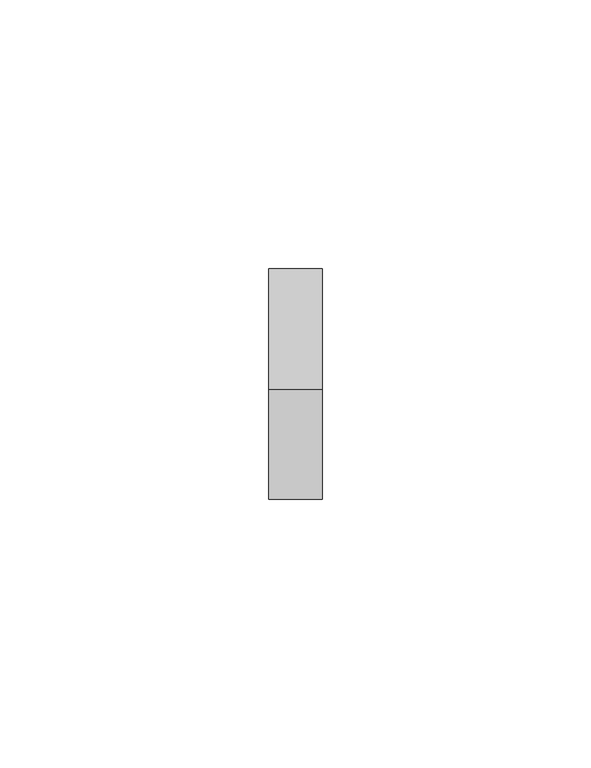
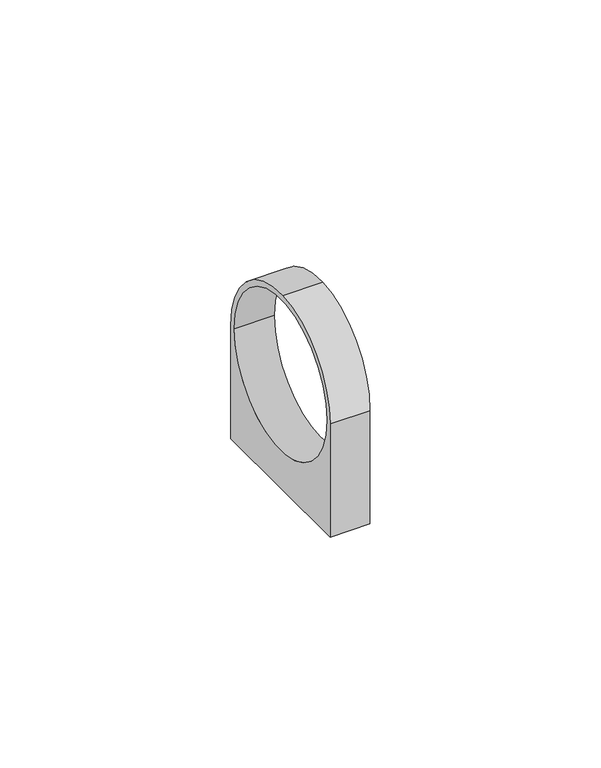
"""IFC4 building model written with IfcOpenShell, lengths in millimetres: cable carrier fitting geometry, Хомутный держатель CFC : CTA10D-CFC40-K41-050."""

from ifc_helpers import new_model, si_unit, point, frame, origin, origin_2d, place, context, project, spatial, polyline, circle_curve, trimmed, segment, composite_curve, outline, extrude, source, transform, mapped, element, save


def cable_carrier_fitting_f47d66c9(model_context):
    return source(origin(), model_context, "Body", "SweptSolid", [
        extrude(outline(composite_curve([segment(polyline([(-21.5, -30.0), (-21.5, 0.0)]), True, "CONTINUOUS"), segment(trimmed(circle_curve(origin_2d(), 21.5), [point((-21.5, 0.0))], [point((-1.0483988, 21.4744234))], False, "CARTESIAN"), True, "CONTINUOUS"), segment(trimmed(circle_curve(origin_2d(), 21.5), [point((-1.0483988, 21.4744234))], [point((21.5, 0.0))], False, "CARTESIAN"), True, "CONTINUOUS"), segment(polyline([(21.5, 0.0), (21.5, -30.0), (-21.5, -30.0)]), True, "CONTINUOUS")], self_intersect=False), holes=[composite_curve([segment(trimmed(circle_curve(origin_2d(), 20.0), [point((-20.0, 0.0))], [point((20.0, 0.0))], True, "CARTESIAN"), True, "CONTINUOUS"), segment(trimmed(circle_curve(origin_2d(), 20.0), [point((20.0, 0.0))], [point((-20.0, 0.0))], True, "CARTESIAN"), True, "CONTINUOUS")], self_intersect=False)]), frame((-5.0, 0.0, 0.0), z_axis=(1.0, 0.0, 0.0), x_axis=(0.0, 1.0, 0.0)), (0.0, 0.0, 1.0), 10.0),
    ])


if __name__ == "__main__":
    model = new_model("IFC4")
    model_context = context("Model", 3, world=origin())
    ifc_project = project(units=[si_unit("LENGTHUNIT", "METRE", prefix="MILLI")], contexts=[model_context])
    site = spatial("IfcSite", under=ifc_project)
    building = spatial("IfcBuilding", under=site)
    placement = place(None, origin())
    cable_carrier_fitting_shape = cable_carrier_fitting_f47d66c9(model_context)
    element("IfcCableCarrierFitting", 1, ObjectType="Хомутный держатель CFC : CTA10D-CFC40-K41-050", at=placement, inside=building, context=model_context, shape_type="MappedRepresentation", body=[
        mapped(cable_carrier_fitting_shape, transform((0.0, 0.0, 0.0), x_axis=(1.0, 0.0, 0.0), y_axis=(0.0, 1.0, 0.0), z_axis=(0.0, 0.0, 1.0))),
    ])
    save(model, "model.ifc")
